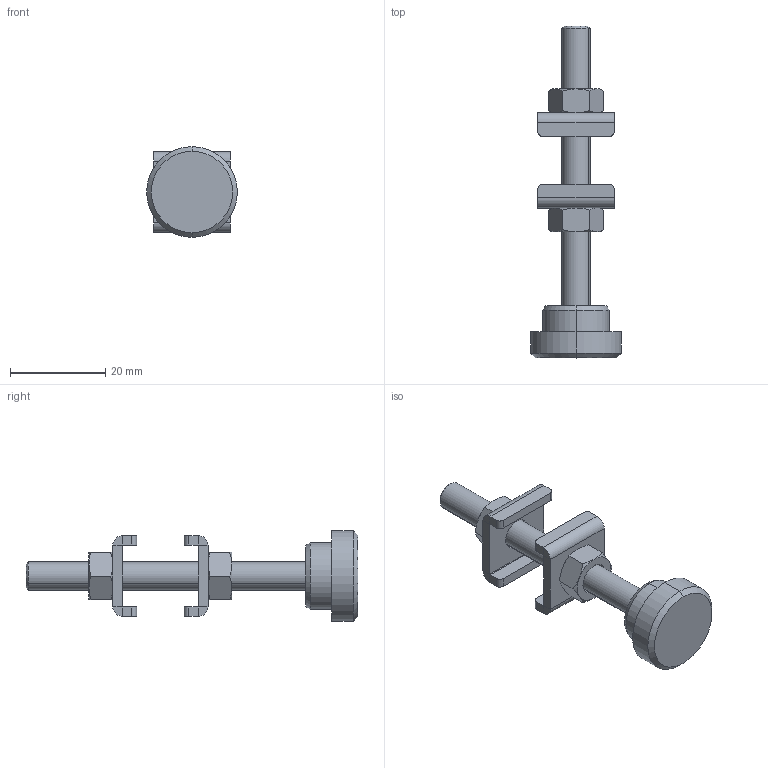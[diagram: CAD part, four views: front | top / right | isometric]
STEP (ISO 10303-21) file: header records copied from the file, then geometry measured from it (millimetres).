
FILE_DESCRIPTION (( 'STEP AP203' ), '1' );
FILE_NAME ('ARP-M6.STEP', '2014-01-29T15:32:56', ( 'Ricardo' ), ( '' ), 'SwSTEP 2.0', 'SolidWorks 2012', '' );
FILE_SCHEMA (( 'CONFIG_CONTROL_DESIGN' ));
Length unit declared in the file: millimetre
Products named in the file (5): 11.50001; 12.50019; ARP-M6; 20.20003; 14.10004
Assembly tree (6 placements, depth 2):
  ARP-M6
    20.20003
    11.50001  x2
    12.50019
    14.10004  x2
Bounding box: 19.05 x 69.7 x 19.05 mm (x, y, z)
Volume: 5479.3 mm3; surface area: 5169.7 mm2
Topology: 6 solids, 6 shells, 136 faces, 294 edges, 171 vertices
Faces by surface type: plane 64, cone 40, cylinder 32
Entity records: 2835 total; most frequent: CARTESIAN_POINT 488, DIRECTION 394, ORIENTED_EDGE 348, EDGE_CURVE 174, AXIS2_PLACEMENT_3D 153, VERTEX_POINT 103, EDGE_LOOP 89, LINE 88
